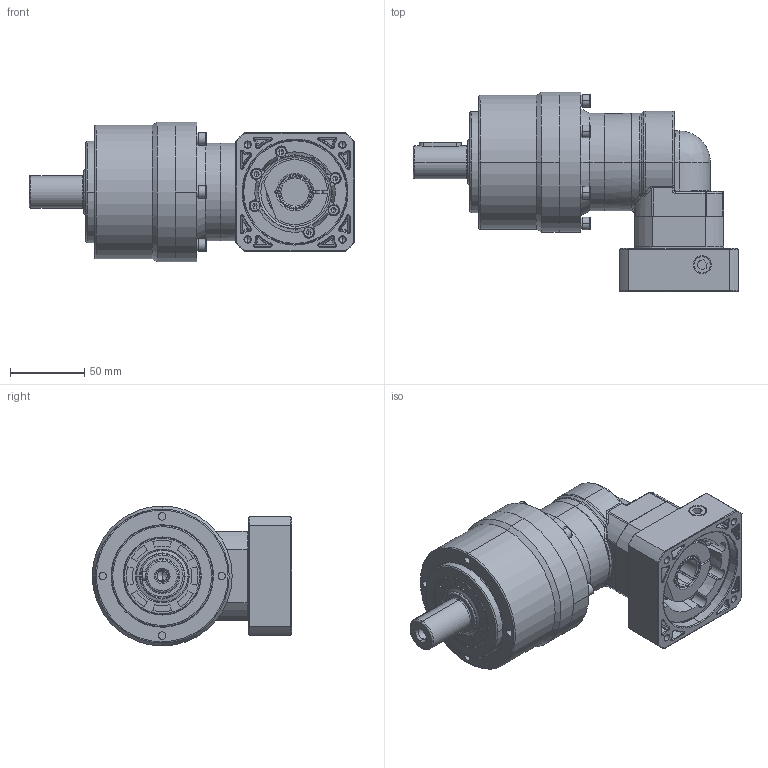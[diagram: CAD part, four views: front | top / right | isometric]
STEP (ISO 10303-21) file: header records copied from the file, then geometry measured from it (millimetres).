
FILE_DESCRIPTION (( 'STEP AP214' ), '1' );
FILE_NAME ('EVL090-L2-S2-P1 19-70-90-M6-42.5.STEP', '2025-02-14T06:54:39', ( '微软用户' ), ( '微软中国' ), 'SwSTEP 2.0', 'SolidWorks 2021', '' );
FILE_SCHEMA (( 'AUTOMOTIVE_DESIGN' ));
Length unit declared in the file: millimetre
Products named in the file (4): EVL090-L2-S2-P1 19-70-90-M6-42.5; EVT060D-L2-8-38.1-66.7-M4-33.STEP; VRL090M1-L2-S2-19-70-90-M6-42.5.STEP; 3.EVT064F_________step_stp_stp.stp.STEP
Assembly tree (7 placements, depth 2):
  EVL090-L2-S2-P1 19-70-90-M6-42.5
    VRL090M1-L2-S2-19-70-90-M6-42.5.STEP
    3.EVT064F_________step_stp_stp.stp.STEP
    EVT060D-L2-8-38.1-66.7-M4-33.STEP  x5
Bounding box: 218.52 x 134.02 x 94 mm (x, y, z)
Volume: 92087 mm3; surface area: 177950.3 mm2
Topology: 1 solids, 47 shells, 1534 faces, 3819 edges, 2405 vertices
Faces by surface type: cylinder 543, plane 434, bspline 314, cone 239, torus 4
Entity records: 76009 total; most frequent: CARTESIAN_POINT 45409, ORIENTED_EDGE 6710, DIRECTION 5614, EDGE_CURVE 3404, AXIS2_PLACEMENT_3D 2242, VERTEX_POINT 2181, EDGE_LOOP 1584, ADVANCED_FACE 1402
